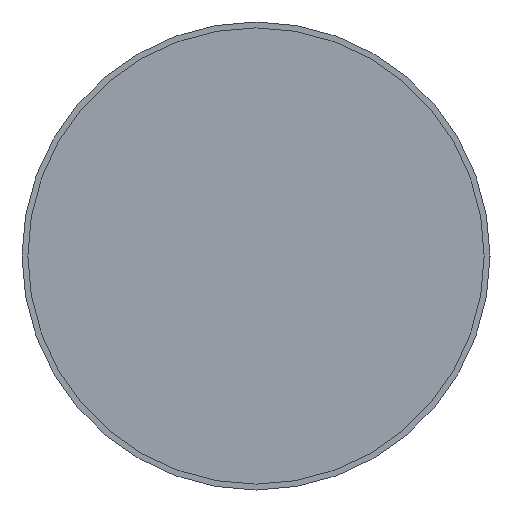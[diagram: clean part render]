
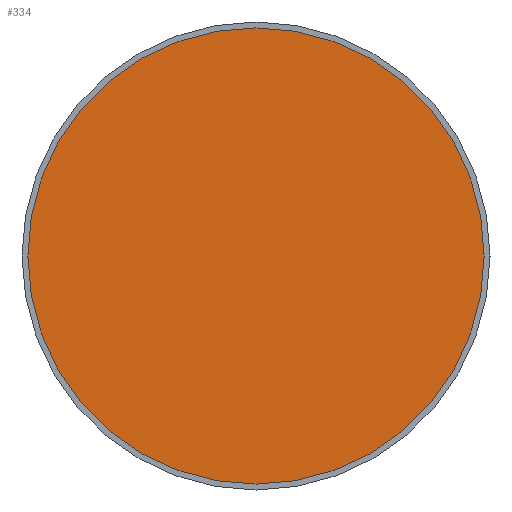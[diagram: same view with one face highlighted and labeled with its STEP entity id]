
A CAD part, left-side view. The second image highlights one B-rep face of the part: STEP entity #334.
In plain terms, the highlighted planar face has unit normal (-1, 0, 0).
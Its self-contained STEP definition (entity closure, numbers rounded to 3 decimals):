
#29=PLANE('',#407);
#32=CIRCLE('',#359,5.845);
#33=CIRCLE('',#360,5.845);
#82=FACE_OUTER_BOUND('',#104,.T.);
#104=EDGE_LOOP('',(#309,#310));
#133=VERTEX_POINT('',#609);
#134=VERTEX_POINT('',#611);
#172=EDGE_CURVE('',#133,#134,#32,.T.);
#173=EDGE_CURVE('',#134,#133,#33,.T.);
#309=ORIENTED_EDGE('',*,*,#173,.F.);
#310=ORIENTED_EDGE('',*,*,#172,.F.);
#334=ADVANCED_FACE('',(#82),#29,.T.);
#359=AXIS2_PLACEMENT_3D('',#612,#420,#421);
#360=AXIS2_PLACEMENT_3D('',#613,#422,#423);
#407=AXIS2_PLACEMENT_3D('',#696,#523,#524);
#420=DIRECTION('center_axis',(1.,0.,0.));
#421=DIRECTION('ref_axis',(0.,0.,-1.));
#422=DIRECTION('center_axis',(1.,0.,0.));
#423=DIRECTION('ref_axis',(0.,0.,-1.));
#523=DIRECTION('center_axis',(-1.,0.,0.));
#524=DIRECTION('ref_axis',(0.,0.,1.));
#609=CARTESIAN_POINT('',(0.,-5.845,0.));
#611=CARTESIAN_POINT('',(0.,5.845,0.));
#612=CARTESIAN_POINT('Origin',(0.,0.,0.));
#613=CARTESIAN_POINT('Origin',(0.,0.,0.));
#696=CARTESIAN_POINT('Origin',(0.,5.845,0.));
